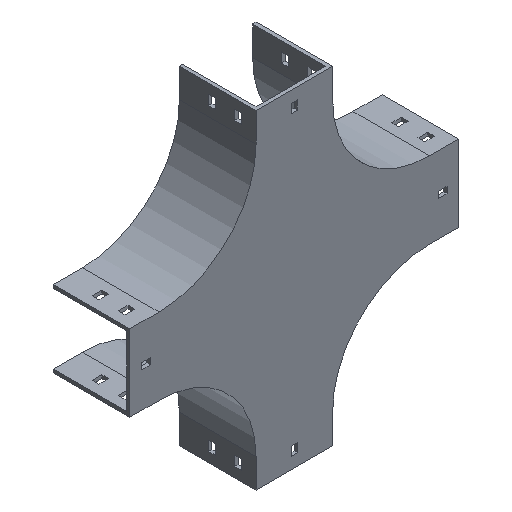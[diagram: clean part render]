
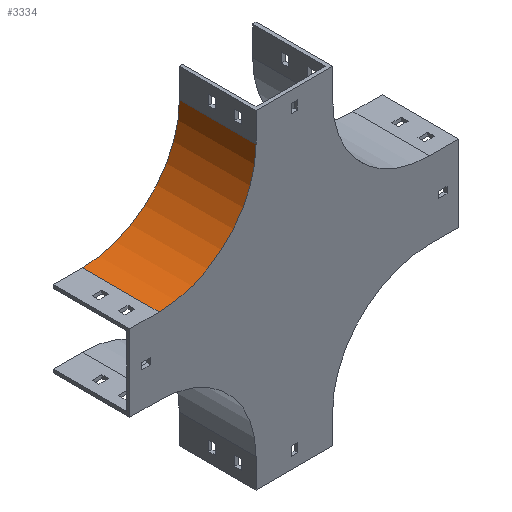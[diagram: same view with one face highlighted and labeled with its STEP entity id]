
A CAD part, isometric view. The second image highlights one B-rep face of the part: STEP entity #3334.
In plain terms, the highlighted cylindrical face has radius 100 mm (diameter 200 mm), a partial arc.
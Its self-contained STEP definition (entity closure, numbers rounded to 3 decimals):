
#281 = AXIS2_PLACEMENT_3D ( 'NONE', #1552, #1160, #2367 ) ;
#289 = EDGE_CURVE ( 'NONE', #375, #3029, #3292, .T. ) ;
#337 = CIRCLE ( 'NONE', #2763, 100. ) ;
#365 = CYLINDRICAL_SURFACE ( 'NONE', #281, 100. ) ;
#375 = VERTEX_POINT ( 'NONE', #1307 ) ;
#482 = CARTESIAN_POINT ( 'NONE',  ( -279., 79., 0. ) ) ;
#499 = ORIENTED_EDGE ( 'NONE', *, *, #2647, .T. ) ;
#618 = DIRECTION ( 'NONE',  ( 0., -1., 0. ) ) ;
#642 = CARTESIAN_POINT ( 'NONE',  ( -279., 0., 0. ) ) ;
#840 = VECTOR ( 'NONE', #2381, 1000. ) ;
#1080 = CARTESIAN_POINT ( 'NONE',  ( -179., 0., 0. ) ) ;
#1105 = AXIS2_PLACEMENT_3D ( 'NONE', #642, #2370, #2984 ) ;
#1160 = DIRECTION ( 'NONE',  ( 0., -1., 0. ) ) ;
#1168 = CARTESIAN_POINT ( 'NONE',  ( -279., 79., -100. ) ) ;
#1169 = CARTESIAN_POINT ( 'NONE',  ( -179., 79., 0. ) ) ;
#1305 = ORIENTED_EDGE ( 'NONE', *, *, #289, .T. ) ;
#1307 = CARTESIAN_POINT ( 'NONE',  ( -279., 79., -100. ) ) ;
#1360 = CIRCLE ( 'NONE', #1105, 100. ) ;
#1552 = CARTESIAN_POINT ( 'NONE',  ( -279., 79., 0. ) ) ;
#1585 = DIRECTION ( 'NONE',  ( 0., 0., 1. ) ) ;
#1670 = EDGE_CURVE ( 'NONE', #375, #3067, #337, .T. ) ;
#1736 = CARTESIAN_POINT ( 'NONE',  ( -179., 79., 0. ) ) ;
#1952 = EDGE_LOOP ( 'NONE', ( #499, #3290, #2302, #1305 ) ) ;
#2254 = CARTESIAN_POINT ( 'NONE',  ( -279., 0., -100. ) ) ;
#2302 = ORIENTED_EDGE ( 'NONE', *, *, #1670, .F. ) ;
#2367 = DIRECTION ( 'NONE',  ( 0., 0., -1. ) ) ;
#2370 = DIRECTION ( 'NONE',  ( 0., -1., 0. ) ) ;
#2381 = DIRECTION ( 'NONE',  ( 0., -1., 0. ) ) ;
#2647 = EDGE_CURVE ( 'NONE', #3029, #3053, #1360, .T. ) ;
#2763 = AXIS2_PLACEMENT_3D ( 'NONE', #482, #2817, #1585 ) ;
#2817 = DIRECTION ( 'NONE',  ( 0., -1., 0. ) ) ;
#2984 = DIRECTION ( 'NONE',  ( 0., 0., 1. ) ) ;
#3029 = VERTEX_POINT ( 'NONE', #2254 ) ;
#3042 = FACE_OUTER_BOUND ( 'NONE', #1952, .T. ) ;
#3053 = VERTEX_POINT ( 'NONE', #1080 ) ;
#3067 = VERTEX_POINT ( 'NONE', #1736 ) ;
#3290 = ORIENTED_EDGE ( 'NONE', *, *, #3805, .F. ) ;
#3292 = LINE ( 'NONE', #1168, #3460 ) ;
#3334 = ADVANCED_FACE ( 'NONE', ( #3042 ), #365, .F. ) ;
#3460 = VECTOR ( 'NONE', #618, 1000. ) ;
#3805 = EDGE_CURVE ( 'NONE', #3067, #3053, #3837, .T. ) ;
#3837 = LINE ( 'NONE', #1169, #840 ) ;
